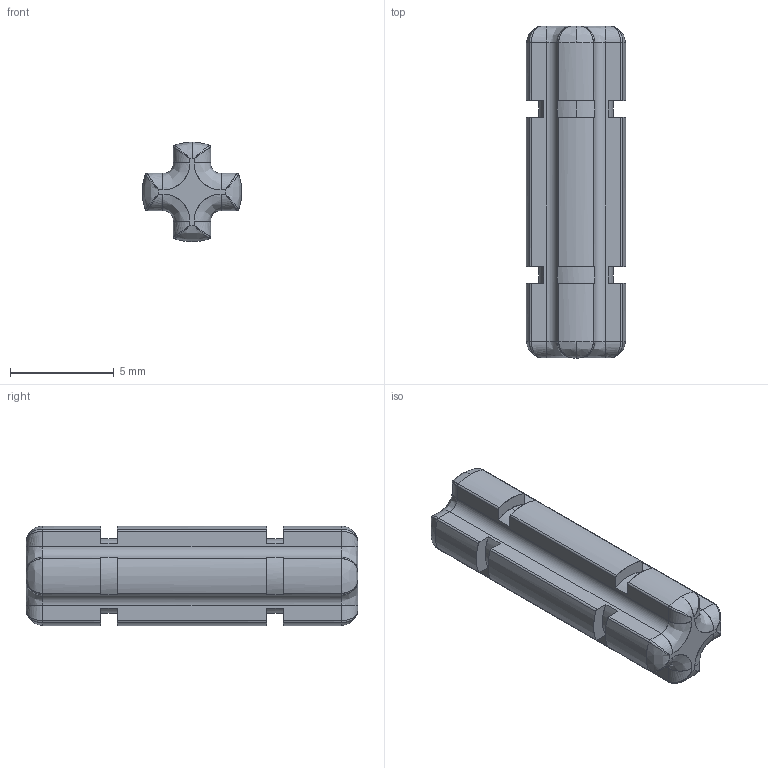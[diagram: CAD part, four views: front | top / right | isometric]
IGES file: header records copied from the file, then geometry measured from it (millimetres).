
Start section: C
Global section: file name: Red_4142865_JCA.iges; native system: By Siemens PLM Incorporated; preprocessor: XPlus GENERIC/IGES 26.1.183; author: Author; organization: Title; date: 20250722.000252; units: millimetre
Bounding box: 4.8 x 16 x 4.8 mm (x, y, z)
Surface area: 296.8 mm2 (no closed solid volume)
Topology: 0 solids, 0 shells, 129 faces, 650 edges, 634 vertices
Faces by surface type: bspline 129
